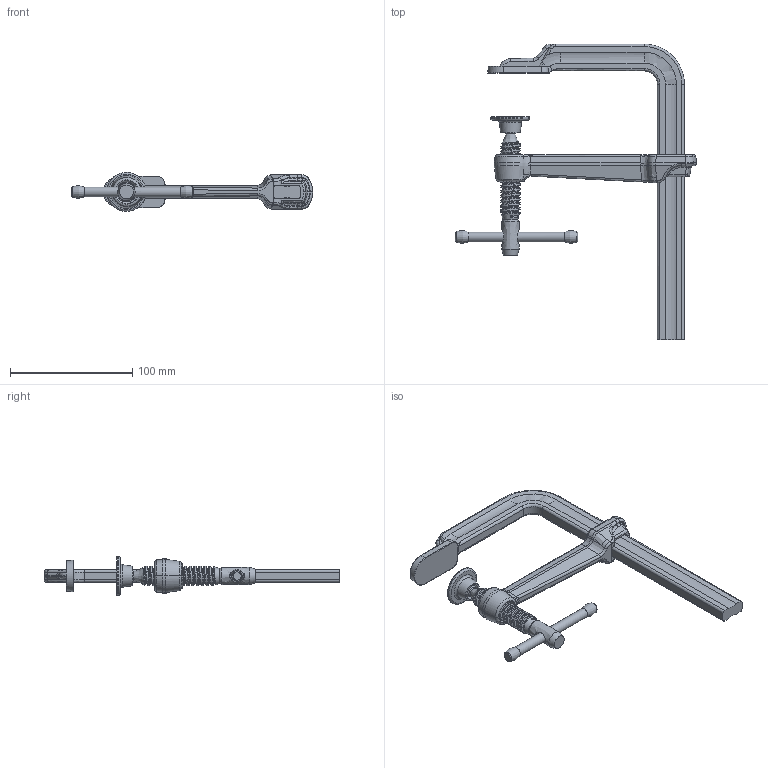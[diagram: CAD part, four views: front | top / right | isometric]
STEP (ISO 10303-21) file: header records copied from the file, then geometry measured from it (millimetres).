
FILE_DESCRIPTION( ('This file contains a STEP AP42 implementation' ,'as created by ZW3D STEP Interface translator.') ,'2;1' );
FILE_NAME( 'GS16-12K.stp' ,'20 7 1.103028', (''), ('ZWCAD Software Co.'), 'Version 1.0', 'ZW3D to STEP translator', '' );
FILE_SCHEMA(('AUTOMOTIVE_DESIGN'));
Length unit declared in the file: millimetre
Products named in the file (2): 0; GS16-12K
Bounding box: 197.3 x 242 x 31.98 mm (x, y, z)
Volume: 142819.7 mm3; surface area: 48292.8 mm2
Topology: 5 solids, 5 shells, 468 faces, 1196 edges, 744 vertices
Faces by surface type: bspline 468
Entity records: 93871 total; most frequent: CARTESIAN_POINT 86458, ORIENTED_EDGE 2390, EDGE_CURVE 1195, B_SPLINE_CURVE_WITH_KNOTS 910, VERTEX_POINT 744, EDGE_LOOP 481, FACE_OUTER_BOUND 468, ADVANCED_FACE 468
